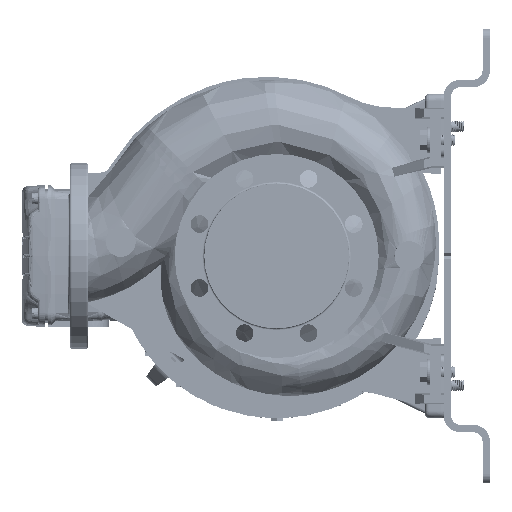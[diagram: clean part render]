
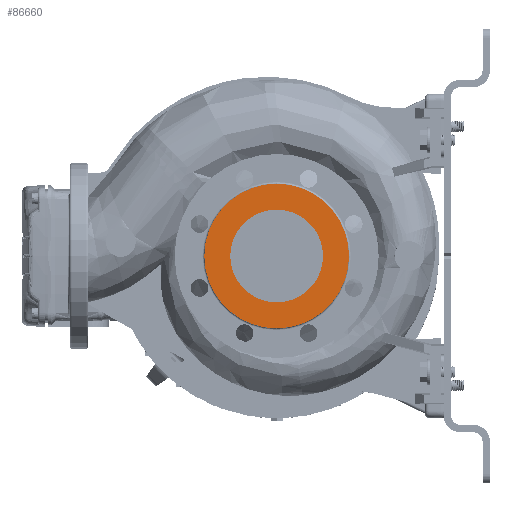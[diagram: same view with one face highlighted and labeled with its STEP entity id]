
A CAD part, left-side view. The second image highlights one B-rep face of the part: STEP entity #86660.
In plain terms, the highlighted planar face has unit normal (-1, 0, 0).
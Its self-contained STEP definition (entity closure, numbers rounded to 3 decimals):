
#95 = CIRCLE ( 'NONE', #49096, 78. ) ;
#9521 = EDGE_LOOP ( 'NONE', ( #164255, #105505 ) ) ;
#11688 = DIRECTION ( 'NONE',  ( -1., 0., 0. ) ) ;
#24388 = CARTESIAN_POINT ( 'NONE',  ( -125., 78., 0. ) ) ;
#26706 = AXIS2_PLACEMENT_3D ( 'NONE', #86105, #213673, #129268 ) ;
#28924 = FACE_BOUND ( 'NONE', #9521, .T. ) ;
#29411 = EDGE_CURVE ( 'NONE', #197466, #59532, #33753, .T. ) ;
#33753 = CIRCLE ( 'NONE', #26706, 50. ) ;
#34113 = EDGE_LOOP ( 'NONE', ( #115873, #101854 ) ) ;
#34558 = DIRECTION ( 'NONE',  ( -1., 0., 0. ) ) ;
#49096 = AXIS2_PLACEMENT_3D ( 'NONE', #78554, #11688, #158601 ) ;
#54074 = CIRCLE ( 'NONE', #117117, 50. ) ;
#59159 = EDGE_CURVE ( 'NONE', #136809, #128024, #95, .T. ) ;
#59532 = VERTEX_POINT ( 'NONE', #193420 ) ;
#78554 = CARTESIAN_POINT ( 'NONE',  ( -125., 0., 0. ) ) ;
#79340 = FACE_OUTER_BOUND ( 'NONE', #34113, .T. ) ;
#79908 = CARTESIAN_POINT ( 'NONE',  ( -125., 0., 0. ) ) ;
#86105 = CARTESIAN_POINT ( 'NONE',  ( -125., 0., 0. ) ) ;
#86375 = AXIS2_PLACEMENT_3D ( 'NONE', #115714, #34558, #182561 ) ;
#86660 = ADVANCED_FACE ( 'NONE', ( #28924, #79340 ), #193398, .F. ) ;
#90007 = CARTESIAN_POINT ( 'NONE',  ( -125., -78., 0. ) ) ;
#93603 = CARTESIAN_POINT ( 'NONE',  ( -125., 0., 0. ) ) ;
#94695 = DIRECTION ( 'NONE',  ( 1., 0., 0. ) ) ;
#101854 = ORIENTED_EDGE ( 'NONE', *, *, #167644, .T. ) ;
#105505 = ORIENTED_EDGE ( 'NONE', *, *, #29411, .F. ) ;
#108989 = DIRECTION ( 'NONE',  ( 0., 1., 0. ) ) ;
#112282 = EDGE_CURVE ( 'NONE', #59532, #197466, #54074, .T. ) ;
#115714 = CARTESIAN_POINT ( 'NONE',  ( -125., 0., 0. ) ) ;
#115873 = ORIENTED_EDGE ( 'NONE', *, *, #59159, .T. ) ;
#117117 = AXIS2_PLACEMENT_3D ( 'NONE', #79908, #130348, #197204 ) ;
#128024 = VERTEX_POINT ( 'NONE', #24388 ) ;
#129268 = DIRECTION ( 'NONE',  ( 0., -1., 0. ) ) ;
#130348 = DIRECTION ( 'NONE',  ( -1., 0., 0. ) ) ;
#136809 = VERTEX_POINT ( 'NONE', #90007 ) ;
#158601 = DIRECTION ( 'NONE',  ( 0., -1., 0. ) ) ;
#159920 = CIRCLE ( 'NONE', #86375, 78. ) ;
#164255 = ORIENTED_EDGE ( 'NONE', *, *, #112282, .F. ) ;
#167644 = EDGE_CURVE ( 'NONE', #128024, #136809, #159920, .T. ) ;
#182561 = DIRECTION ( 'NONE',  ( 0., -1., 0. ) ) ;
#182803 = AXIS2_PLACEMENT_3D ( 'NONE', #93603, #94695, #108989 ) ;
#193398 = PLANE ( 'NONE',  #182803 ) ;
#193420 = CARTESIAN_POINT ( 'NONE',  ( -125., -50., 0. ) ) ;
#197204 = DIRECTION ( 'NONE',  ( 0., -1., 0. ) ) ;
#197466 = VERTEX_POINT ( 'NONE', #201081 ) ;
#201081 = CARTESIAN_POINT ( 'NONE',  ( -125., 50., 0. ) ) ;
#213673 = DIRECTION ( 'NONE',  ( -1., 0., 0. ) ) ;
